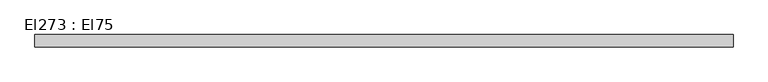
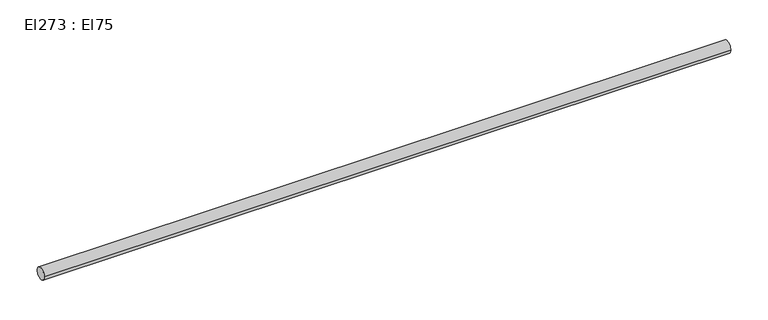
"""IFC4 building model written with IfcOpenShell, lengths in millimetres: cable carrier segment geometry, El273 : El75."""

from ifc_helpers import new_model, si_unit, point, frame, frame_2d, origin, place, context, project, spatial, circle_curve, trimmed, segment, composite_curve, outline, extrude, source, transform, mapped, element, save


def el273_el75_b29c2926(model_context):
    return source(origin(), model_context, "Body", "SweptSolid", [
        extrude(outline(composite_curve([segment(trimmed(circle_curve(frame_2d((6766.0121745, 1800.0)), 9.5), [point((6756.5121745, 1800.0))], [point((6775.5121745, 1800.0))], False, "CARTESIAN"), True, "CONTINUOUS"), segment(trimmed(circle_curve(frame_2d((6766.0121745, 1800.0)), 9.5), [point((6775.5121745, 1800.0))], [point((6756.5121745, 1800.0))], False, "CARTESIAN"), True, "CONTINUOUS")], self_intersect=False)), frame((16096.6126511, 0.0, 0.0), z_axis=(1.0, 0.0, 0.0), x_axis=(0.0, 1.0, 0.0)), (0.0, 0.0, 1.0), 1064.12),
    ])


if __name__ == "__main__":
    model = new_model("IFC4")
    model_context = context("Model", 3, world=origin())
    ifc_project = project(units=[si_unit("LENGTHUNIT", "METRE", prefix="MILLI")], contexts=[model_context])
    site = spatial("IfcSite", under=ifc_project)
    building = spatial("IfcBuilding", under=site)
    placement = place(None, origin())
    el273_el75_shape = el273_el75_b29c2926(model_context)
    element("IfcCableCarrierSegment", 1, ObjectType="El273 : El75", at=placement, inside=building, context=model_context, shape_type="MappedRepresentation", body=[
        mapped(el273_el75_shape, transform((0.0, 0.0, 0.0), x_axis=(1.0, 0.0, 0.0), y_axis=(0.0, 1.0, 0.0), z_axis=(0.0, 0.0, 1.0))),
    ])
    save(model, "model.ifc")
